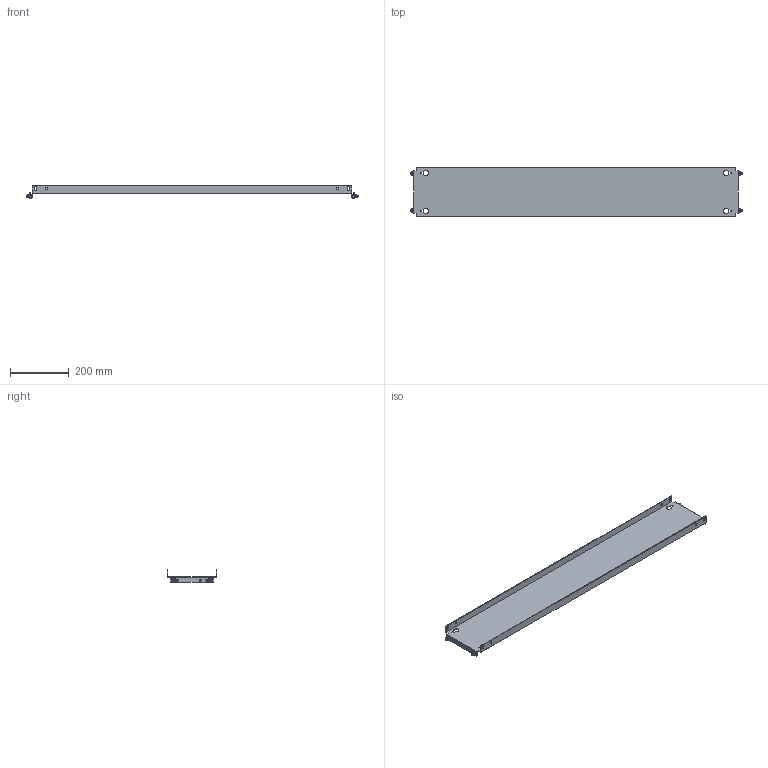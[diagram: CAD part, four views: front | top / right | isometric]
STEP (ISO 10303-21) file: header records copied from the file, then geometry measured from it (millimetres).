
FILE_DESCRIPTION(('Open CASCADE Model'),'2;1');
FILE_NAME('Open CASCADE Shape Model','2025-02-24T17:07:12',('Author'),( 'Open CASCADE'),'Open CASCADE STEP processor 7.8','Open CASCADE 7.8' ,'Unknown');
FILE_SCHEMA(('AUTOMOTIVE_DESIGN { 1 0 10303 214 1 1 1 1 }'));
Length unit declared in the file: millimetre
Products named in the file (4): Compound1; Solid1; Solid2; Solid3
Assembly tree (9 placements, depth 2):
  Compound1
    Solid1
    Solid2  x4
    Solid3  x4
Bounding box: 1127 x 169 x 42.59 mm (x, y, z)
Volume: 603844.9 mm3; surface area: 492070 mm2
Topology: 9 solids, 9 shells, 308 faces, 753 edges, 467 vertices
Faces by surface type: plane 150, cone 68, bspline 48, cylinder 30, torus 12
Full cylindrical faces by diameter (mm): 5 x4, 6 x8, 7 x14
Entity records: 4930 total; most frequent: CARTESIAN_POINT 1377, ORIENTED_EDGE 756, DIRECTION 642, EDGE_CURVE 378, VERTEX_POINT 245, LINE 216, VECTOR 216, AXIS2_PLACEMENT_3D 213
